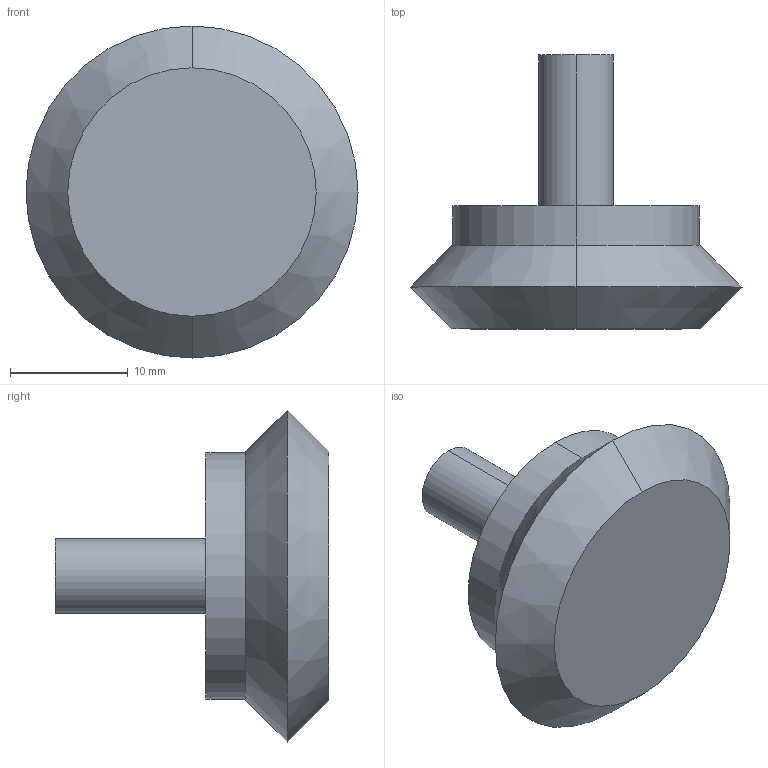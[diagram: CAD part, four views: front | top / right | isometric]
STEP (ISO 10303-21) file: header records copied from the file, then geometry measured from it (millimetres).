
FILE_DESCRIPTION (( 'STEP AP214' ), '1' );
FILE_NAME ('DP Foot.STEP', '2010-08-12T14:24:40', ( '' ), ( '' ), 'SwSTEP 2.0', 'SolidWorks 2010', '' );
FILE_SCHEMA (( 'AUTOMOTIVE_DESIGN' ));
Length unit declared in the file: inch
Products named in the file (1): DP Foot
Bounding box: 28.24 x 23.3 x 28.24 mm (x, y, z)
Volume: 4991.2 mm3; surface area: 1958.5 mm2
Topology: 1 solids, 1 shells, 12 faces, 22 edges, 14 vertices
Faces by surface type: cylinder 4, cone 4, plane 4
Entity records: 344 total; most frequent: DIRECTION 62, CARTESIAN_POINT 49, ORIENTED_EDGE 44, AXIS2_PLACEMENT_3D 27, EDGE_CURVE 22, VERTEX_POINT 14, EDGE_LOOP 14, CIRCLE 14
